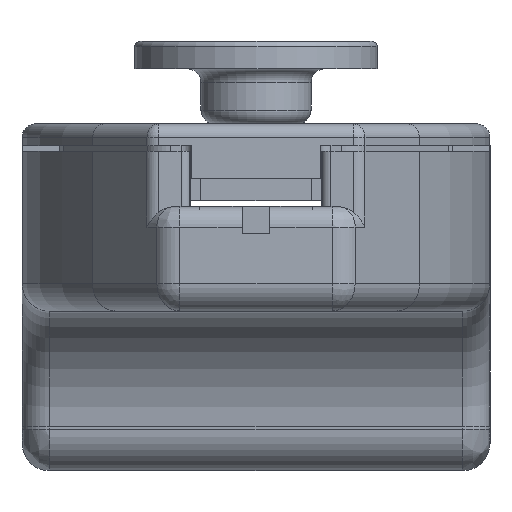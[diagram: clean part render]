
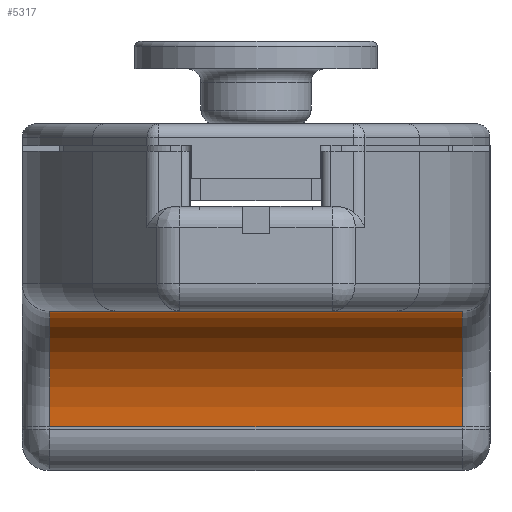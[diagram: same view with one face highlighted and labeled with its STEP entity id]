
A CAD part, left-side view. The second image highlights one B-rep face of the part: STEP entity #5317.
In plain terms, the highlighted cylindrical face has radius 4.2 mm (diameter 8.4 mm), a partial arc.
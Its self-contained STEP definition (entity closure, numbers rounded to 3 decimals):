
#133=CIRCLE('',#5670,4.2);
#141=CIRCLE('',#5682,4.2);
#288=CYLINDRICAL_SURFACE('',#5690,4.2);
#406=FACE_OUTER_BOUND('',#710,.T.);
#710=EDGE_LOOP('',(#3729,#3730,#3731,#3732));
#1030=LINE('',#7844,#1628);
#1071=LINE('',#8005,#1669);
#1628=VECTOR('',#6218,10.);
#1669=VECTOR('',#6373,10.);
#2231=VERTEX_POINT('',#7841);
#2232=VERTEX_POINT('',#7843);
#2273=VERTEX_POINT('',#7956);
#2277=VERTEX_POINT('',#7990);
#2764=EDGE_CURVE('',#2231,#2232,#1030,.T.);
#2822=EDGE_CURVE('',#2232,#2273,#133,.T.);
#2833=EDGE_CURVE('',#2277,#2231,#141,.T.);
#2838=EDGE_CURVE('',#2273,#2277,#1071,.T.);
#3729=ORIENTED_EDGE('',*,*,#2833,.F.);
#3730=ORIENTED_EDGE('',*,*,#2838,.F.);
#3731=ORIENTED_EDGE('',*,*,#2822,.F.);
#3732=ORIENTED_EDGE('',*,*,#2764,.F.);
#5317=ADVANCED_FACE('',(#406),#288,.F.);
#5670=AXIS2_PLACEMENT_3D('',#7958,#6328,#6329);
#5682=AXIS2_PLACEMENT_3D('',#7995,#6355,#6356);
#5690=AXIS2_PLACEMENT_3D('',#8006,#6374,#6375);
#6218=DIRECTION('',(0.,-1.,0.));
#6328=DIRECTION('center_axis',(0.,1.,0.));
#6329=DIRECTION('ref_axis',(0.707,0.,0.707));
#6355=DIRECTION('center_axis',(0.,-1.,0.));
#6356=DIRECTION('ref_axis',(0.707,0.,0.707));
#6373=DIRECTION('',(0.,1.,0.));
#6374=DIRECTION('center_axis',(0.,-1.,0.));
#6375=DIRECTION('ref_axis',(0.707,0.,0.707));
#7841=CARTESIAN_POINT('',(49.39,7.5,-0.8));
#7843=CARTESIAN_POINT('',(49.39,-7.5,-0.8));
#7844=CARTESIAN_POINT('',(49.39,8.,-0.8));
#7956=CARTESIAN_POINT('',(53.59,-7.5,-5.));
#7958=CARTESIAN_POINT('Origin',(49.39,-7.5,-5.));
#7990=CARTESIAN_POINT('',(53.59,7.5,-5.));
#7995=CARTESIAN_POINT('Origin',(49.39,7.5,-5.));
#8005=CARTESIAN_POINT('',(53.59,8.,-5.));
#8006=CARTESIAN_POINT('Origin',(49.39,-4.,-5.));
